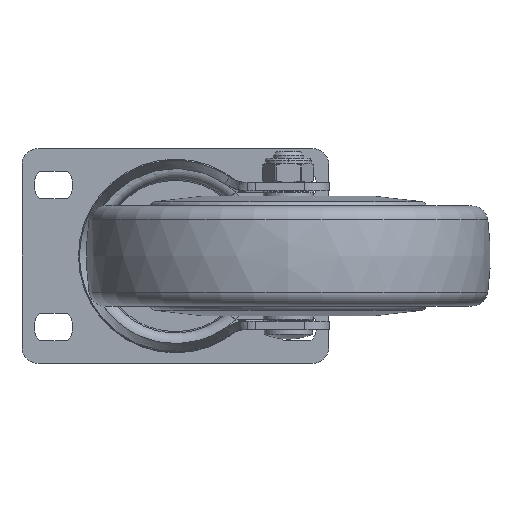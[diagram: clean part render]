
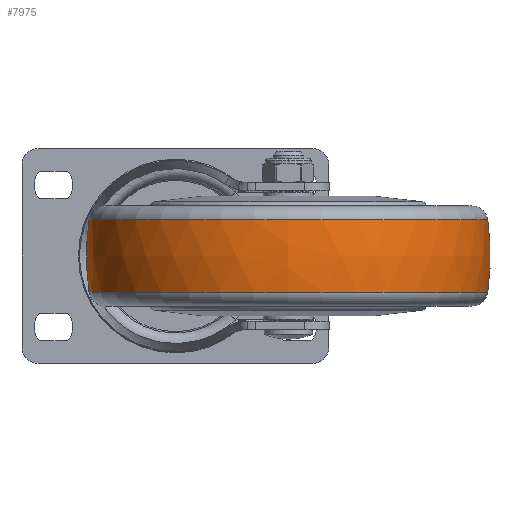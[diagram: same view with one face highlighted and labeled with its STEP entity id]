
A CAD part, front view. The second image highlights one B-rep face of the part: STEP entity #7975.
In plain terms, the highlighted free-form (B-spline) face has degree [3, 3] with [7, 4] control points.
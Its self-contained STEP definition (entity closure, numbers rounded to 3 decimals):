
#7426=CARTESIAN_POINT('',(11.2,0.,0.));
#7427=DIRECTION('',(-1.,0.,0.));
#7428=DIRECTION('',(0.,1.,0.));
#7429=AXIS2_PLACEMENT_3D('',#7426,#7427,#7428);
#7431=CARTESIAN_POINT('',(0.,-17.482,0.));
#7432=DIRECTION('',(0.,0.,1.));
#7433=DIRECTION('',(0.14,0.99,0.));
#7434=AXIS2_PLACEMENT_3D('',#7431,#7432,#7433);
#7441=CARTESIAN_POINT('',(0.,17.482,0.));
#7442=DIRECTION('',(0.,0.,-1.));
#7443=DIRECTION('',(0.14,-0.99,0.));
#7444=AXIS2_PLACEMENT_3D('',#7441,#7442,#7443);
#7653=CARTESIAN_POINT('',(-11.2,0.,0.));
#7654=DIRECTION('',(-1.,0.,0.));
#7655=DIRECTION('',(0.,1.,0.));
#7656=AXIS2_PLACEMENT_3D('',#7653,#7654,#7655);
#7840=CARTESIAN_POINT('',(11.2,61.73,0.));
#7841=CARTESIAN_POINT('',(-11.2,61.73,0.));
#7842=VERTEX_POINT('',#7840);
#7843=VERTEX_POINT('',#7841);
#7888=CARTESIAN_POINT('',(11.2,-61.73,
0.));
#7889=CARTESIAN_POINT('',(-11.2,-61.73,
0.));
#7890=VERTEX_POINT('',#7888);
#7891=VERTEX_POINT('',#7889);
#7936=CARTESIAN_POINT('',(11.645,61.544,3.872));
#7937=CARTESIAN_POINT('',(3.909,62.68,3.943));
#7938=CARTESIAN_POINT('',(-3.909,62.68,3.943));
#7939=CARTESIAN_POINT('',(-11.645,61.544,3.872));
#7940=CARTESIAN_POINT('',(11.645,63.927,-34.002));
#7941=CARTESIAN_POINT('',(3.909,65.107,-34.63));
#7942=CARTESIAN_POINT('',(-3.909,65.107,
-34.63));
#7943=CARTESIAN_POINT('',(-11.645,63.927,
-34.002));
#7944=CARTESIAN_POINT('',(11.645,37.949,-61.666));
#7945=CARTESIAN_POINT('',(3.909,38.649,-62.804));
#7946=CARTESIAN_POINT('',(-3.909,38.649,
-62.804));
#7947=CARTESIAN_POINT('',(-11.645,37.949,
-61.666));
#7948=CARTESIAN_POINT('',(11.645,0.,-61.666));
#7949=CARTESIAN_POINT('',(3.909,0.,-62.804));
#7950=CARTESIAN_POINT('',(-3.909,0.,-62.804));
#7951=CARTESIAN_POINT('',(-11.645,0.,
-61.666));
#7952=CARTESIAN_POINT('',(11.645,-37.949,
-61.666));
#7953=CARTESIAN_POINT('',(3.909,-38.649,
-62.804));
#7954=CARTESIAN_POINT('',(-3.909,-38.649,
-62.804));
#7955=CARTESIAN_POINT('',(-11.645,-37.949,
-61.666));
#7956=CARTESIAN_POINT('',(11.645,-63.927,
-34.002));
#7957=CARTESIAN_POINT('',(3.909,-65.107,
-34.63));
#7958=CARTESIAN_POINT('',(-3.909,-65.107,
-34.63));
#7959=CARTESIAN_POINT('',(-11.645,-63.927,
-34.002));
#7960=CARTESIAN_POINT('',(11.645,-61.544,3.872));
#7961=CARTESIAN_POINT('',(3.909,-62.68,3.943));
#7962=CARTESIAN_POINT('',(-3.909,-62.68,
3.943));
#7963=CARTESIAN_POINT('',(-11.645,-61.544,
3.872));
#7964=(BOUNDED_SURFACE()B_SPLINE_SURFACE(3,3,((#7936,#7937,#7938,#7939),(#7940,
#7941,#7942,#7943),(#7944,#7945,#7946,#7947),(#7948,#7949,#7950,#7951),(#7952,
#7953,#7954,#7955),(#7956,#7957,#7958,#7959),(#7960,#7961,#7962,#7963)),
.UNSPECIFIED.,.F.,.F.,.F.)B_SPLINE_SURFACE_WITH_KNOTS((4,3,4),(4,4),(0.,1.,
2.),(0.,1.),.UNSPECIFIED.)GEOMETRIC_REPRESENTATION_ITEM()RATIONAL_B_SPLINE_SURFACE(((1.194,1.185,1.185,1.194),(
0.943,0.936,0.936,0.943),(
0.943,0.936,0.936,0.943),(
1.194,1.185,1.185,1.194),(
0.943,0.936,0.936,0.943),(
0.943,0.936,0.936,0.943),(
1.194,1.185,1.185,1.194)))REPRESENTATION_ITEM('')SURFACE());
#7966=ORIENTED_EDGE('',*,*,#7965,.T.);
#7968=ORIENTED_EDGE('',*,*,#7967,.T.);
#7970=ORIENTED_EDGE('',*,*,#7969,.F.);
#7972=ORIENTED_EDGE('',*,*,#7971,.F.);
#7973=EDGE_LOOP('',(#7966,#7968,#7970,#7972));
#7974=FACE_OUTER_BOUND('',#7973,.F.);
#7430=CIRCLE('',#7429,61.73);
#7435=CIRCLE('',#7434,80.);
#7445=CIRCLE('',#7444,80.);
#7657=CIRCLE('',#7656,61.73);
#7965=EDGE_CURVE('',#7842,#7843,#7435,.T.);
#7967=EDGE_CURVE('',#7843,#7891,#7657,.T.);
#7969=EDGE_CURVE('',#7890,#7891,#7445,.T.);
#7971=EDGE_CURVE('',#7842,#7890,#7430,.T.);
#7975=ADVANCED_FACE('',(#7974),#7964,.T.);
